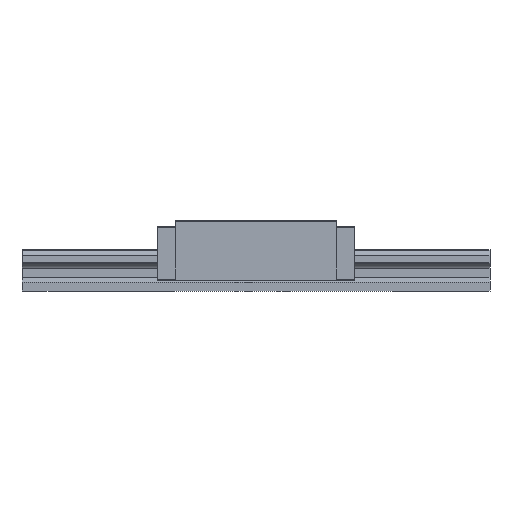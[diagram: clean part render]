
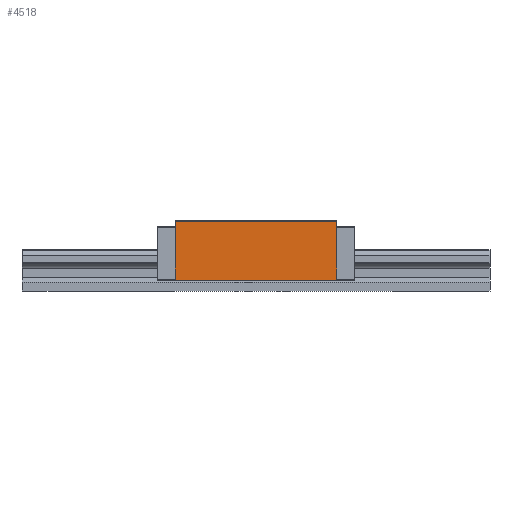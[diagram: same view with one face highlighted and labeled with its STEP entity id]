
A CAD part, front view. The second image highlights one B-rep face of the part: STEP entity #4518.
In plain terms, the highlighted planar face has unit normal (0, -1, 0).
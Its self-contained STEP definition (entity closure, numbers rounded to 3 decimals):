
#319 = CARTESIAN_POINT ( 'NONE',  ( -103.25, -63., 90. ) ) ;
#352 = VECTOR ( 'NONE', #4235, 1000. ) ;
#410 = CARTESIAN_POINT ( 'NONE',  ( 103.25, -63., 89.5 ) ) ;
#436 = ORIENTED_EDGE ( 'NONE', *, *, #2831, .F. ) ;
#635 = DIRECTION ( 'NONE',  ( 0., 0., -1. ) ) ;
#640 = LINE ( 'NONE', #3850, #4082 ) ;
#858 = VECTOR ( 'NONE', #1495, 1000. ) ;
#886 = ORIENTED_EDGE ( 'NONE', *, *, #3314, .T. ) ;
#984 = AXIS2_PLACEMENT_3D ( 'NONE', #2518, #1379, #3720 ) ;
#1351 = FACE_OUTER_BOUND ( 'NONE', #4637, .T. ) ;
#1354 = VERTEX_POINT ( 'NONE', #4737 ) ;
#1379 = DIRECTION ( 'NONE',  ( 0., 1., 0. ) ) ;
#1495 = DIRECTION ( 'NONE',  ( -1., 0., 0. ) ) ;
#1522 = EDGE_CURVE ( 'NONE', #5020, #1354, #1543, .T. ) ;
#1543 = LINE ( 'NONE', #410, #858 ) ;
#1602 = ORIENTED_EDGE ( 'NONE', *, *, #1522, .T. ) ;
#1752 = CARTESIAN_POINT ( 'NONE',  ( 103.25, -63., 90. ) ) ;
#1766 = CARTESIAN_POINT ( 'NONE',  ( 103.25, -63., 89.5 ) ) ;
#1878 = VECTOR ( 'NONE', #635, 1000. ) ;
#2065 = ORIENTED_EDGE ( 'NONE', *, *, #4537, .F. ) ;
#2518 = CARTESIAN_POINT ( 'NONE',  ( 103.25, -63., 90. ) ) ;
#2752 = VERTEX_POINT ( 'NONE', #4961 ) ;
#2831 = EDGE_CURVE ( 'NONE', #5020, #4578, #4581, .T. ) ;
#2897 = PLANE ( 'NONE',  #984 ) ;
#3314 = EDGE_CURVE ( 'NONE', #1354, #2752, #4559, .T. ) ;
#3720 = DIRECTION ( 'NONE',  ( 1., 0., 0. ) ) ;
#3850 = CARTESIAN_POINT ( 'NONE',  ( 103.25, -63., 14. ) ) ;
#4082 = VECTOR ( 'NONE', #4205, 1000. ) ;
#4205 = DIRECTION ( 'NONE',  ( -1., 0., 0. ) ) ;
#4234 = CARTESIAN_POINT ( 'NONE',  ( 103.25, -63., 14. ) ) ;
#4235 = DIRECTION ( 'NONE',  ( 0., 0., -1. ) ) ;
#4518 = ADVANCED_FACE ( 'NONE', ( #1351 ), #2897, .F. ) ;
#4537 = EDGE_CURVE ( 'NONE', #4578, #2752, #640, .T. ) ;
#4559 = LINE ( 'NONE', #319, #352 ) ;
#4578 = VERTEX_POINT ( 'NONE', #4234 ) ;
#4581 = LINE ( 'NONE', #1752, #1878 ) ;
#4637 = EDGE_LOOP ( 'NONE', ( #436, #1602, #886, #2065 ) ) ;
#4737 = CARTESIAN_POINT ( 'NONE',  ( -103.25, -63., 89.5 ) ) ;
#4961 = CARTESIAN_POINT ( 'NONE',  ( -103.25, -63., 14. ) ) ;
#5020 = VERTEX_POINT ( 'NONE', #1766 ) ;
